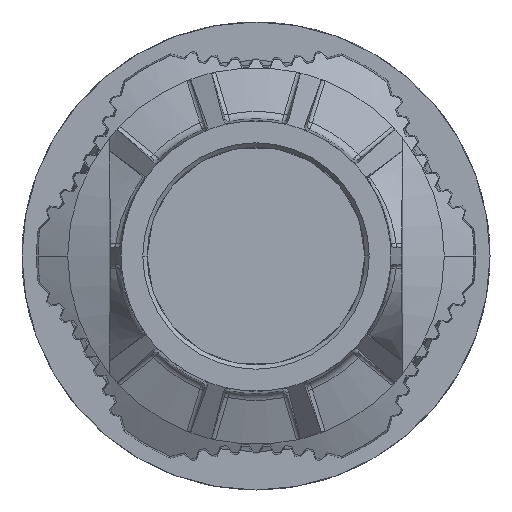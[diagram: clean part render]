
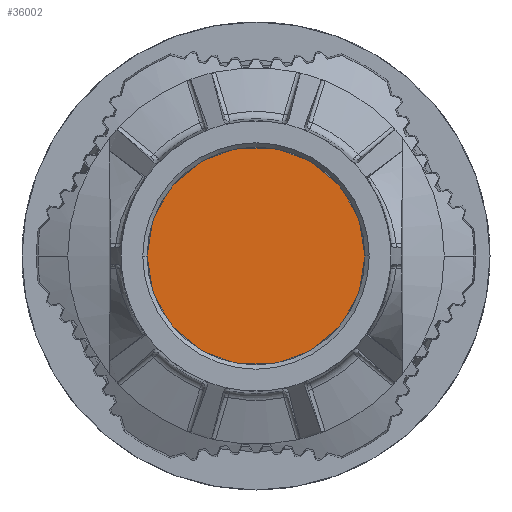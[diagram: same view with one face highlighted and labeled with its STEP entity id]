
A CAD part, left-side view. The second image highlights one B-rep face of the part: STEP entity #36002.
In plain terms, the highlighted planar face has unit normal (-1, 0, 0).
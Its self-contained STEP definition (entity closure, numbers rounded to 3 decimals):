
#14499=CARTESIAN_POINT('',(-37.463,0.,0.));
#14500=DIRECTION('',(1.,0.,0.));
#14501=DIRECTION('',(0.,1.,0.));
#14502=AXIS2_PLACEMENT_3D('',#14499,#14500,#14501);
#14504=CARTESIAN_POINT('',(-37.463,0.,0.));
#14505=DIRECTION('',(1.,0.,0.));
#14506=DIRECTION('',(0.,-1.,0.));
#14507=AXIS2_PLACEMENT_3D('',#14504,#14505,#14506);
#17133=CARTESIAN_POINT('',(-37.463,-5.493,
0.));
#17134=CARTESIAN_POINT('',(-37.463,5.493,
0.));
#17135=VERTEX_POINT('',#17133);
#17136=VERTEX_POINT('',#17134);
#35992=CARTESIAN_POINT('',(-37.463,0.,0.));
#35993=DIRECTION('',(1.,0.,0.));
#35994=DIRECTION('',(0.,-1.,0.));
#35995=AXIS2_PLACEMENT_3D('',#35992,#35993,#35994);
#35996=PLANE('',#35995);
#35997=ORIENTED_EDGE('',*,*,#35981,.T.);
#35999=ORIENTED_EDGE('',*,*,#35998,.T.);
#36000=EDGE_LOOP('',(#35997,#35999));
#36001=FACE_OUTER_BOUND('',#36000,.F.);
#36002=ADVANCED_FACE('',(#36001),#35996,.F.);
#14503=CIRCLE('',#14502,5.493);
#14508=CIRCLE('',#14507,5.493);
#35981=EDGE_CURVE('',#17136,#17135,#14503,.T.);
#35998=EDGE_CURVE('',#17135,#17136,#14508,.T.);
